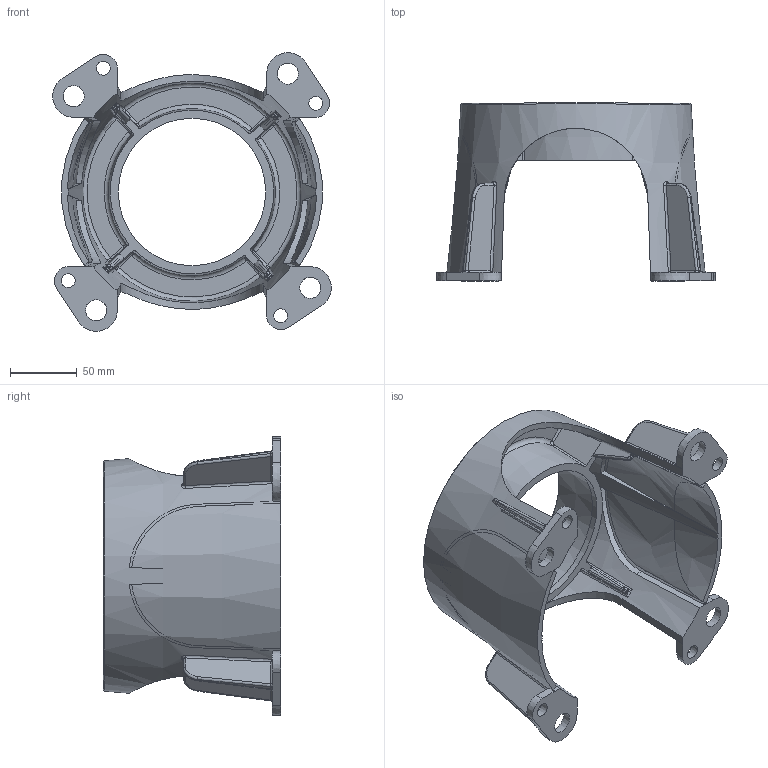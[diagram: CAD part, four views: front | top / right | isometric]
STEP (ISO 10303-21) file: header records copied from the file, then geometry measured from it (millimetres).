
FILE_DESCRIPTION(/* description */ ('Alibre Inc.'),/* implementation_level */ '2;1');
FILE_NAME(/* name */ 'export0',/* time_stamp */ '2010-12-06T11:10:51-05:00',/* author */ (''),/* organization */ (''),/* preprocessor_version */ 'ST-DEVELOPER v10',/* originating_system */ 'Alibre',/* authorisation */ '');
FILE_SCHEMA (('AUTOMOTIVE_DESIGN'));
Length unit declared in the file: centimetre
Bounding box: 209.3 x 133.35 x 209.3 mm (x, y, z)
Volume: 425344 mm3; surface area: 193642.9 mm2
Topology: 1 solids, 1 shells, 305 faces, 787 edges, 477 vertices
Faces by surface type: bspline 176, plane 65, cone 34, torus 16, cylinder 14
Entity records: 29486 total; most frequent: CARTESIAN_POINT 23755, ORIENTED_EDGE 1526, EDGE_CURVE 763, DIRECTION 611, VERTEX_POINT 475, B_SPLINE_CURVE_WITH_KNOTS 392, EDGE_LOOP 338, FACE_BOUND 338
